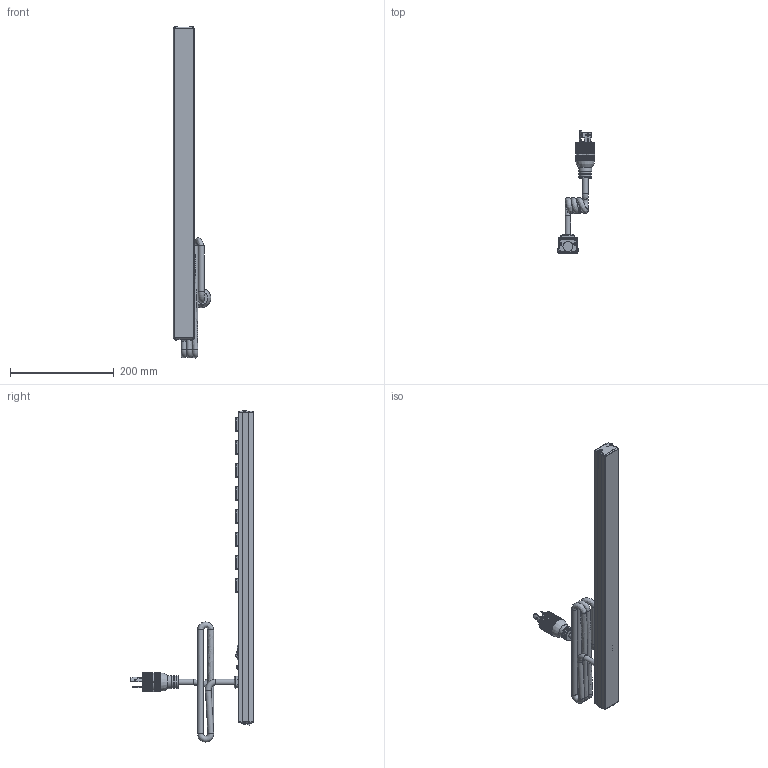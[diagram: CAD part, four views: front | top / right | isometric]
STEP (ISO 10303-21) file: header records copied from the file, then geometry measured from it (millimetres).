
FILE_DESCRIPTION((''),'2;1');
FILE_NAME('E:\Dutton\Manufacturing\drawings\Updated 2009\Vertical Rack Mount Strips\1589 Series\STEP''s\1589H24C1.stp','2010-01-21T08:16:30',('tfoster'),(''),'Autodesk Inventor 2010','Autodesk Inventor 2010','');
FILE_SCHEMA(('AUTOMOTIVE_DESIGN { 1 0 10303 214 1 1 1 1 }'));
Products named in the file (14): 1589H24C1; 24' - 8 Outlet top; 24' Bottom; End Cap; End Cap w breaker; Reset Switch; #6 - 0.375 Type A screw; 20 amp Twist Cored; toothwasher; round head 1-way 8-32 x 0.5 screw; Power Switch Assembly; Power Switch; Power Switch pt; 20 Amp Receptacle
Assembly tree (21 placements, depth 3):
  1589H24C1
    End Cap
    End Cap w breaker
    Reset Switch
    #6 - 0.375 Type A screw  x4
    20 amp Twist Cored
    toothwasher
    round head 1-way 8-32 x 0.5 screw
    Power Switch Assembly
      Power Switch
      Power Switch pt
    20 Amp Receptacle  x8
  24' - 8 Outlet top
  24' Bottom
Bounding box: 72.44 x 237.87 x 641.24 mm (x, y, z)
Volume: 449876.5 mm3; surface area: 297857.3 mm2
Topology: 22 solids, 22 shells, 1318 faces, 3704 edges, 2422 vertices
Faces by surface type: plane 847, cylinder 284, bspline 103, sphere 37, cone 31, torus 16
Full cylindrical faces by diameter (mm): 1 x2, 1.803 x3, 1.905 x2, 2.794 x3, 3.175 x12, 4.3 x1, 4.826 x1, 7.849 x1, 11 x4, 12.5 x1, 19.05 x2, 22.606 x2, 25.146 x3, 26.67 x1
Entity records: 30591 total; most frequent: CARTESIAN_POINT 9416, ORIENTED_EDGE 4480, DIRECTION 4058, EDGE_CURVE 2240, VERTEX_POINT 1527, AXIS2_PLACEMENT_3D 1356, VECTOR 1346, LINE 1346
